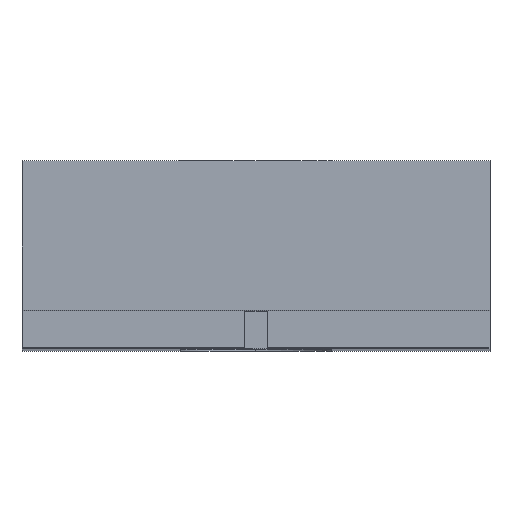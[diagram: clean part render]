
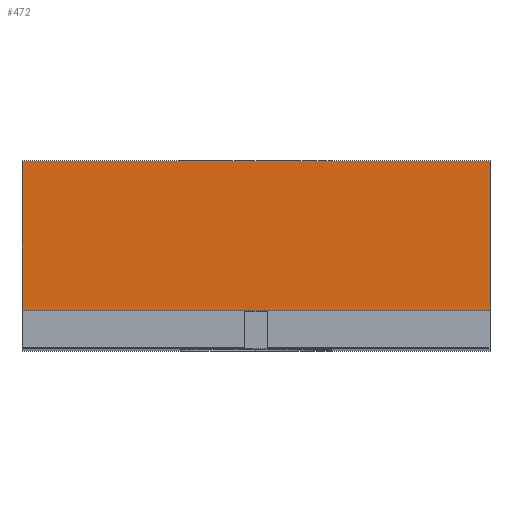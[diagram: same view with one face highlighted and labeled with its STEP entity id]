
A CAD part, top view. The second image highlights one B-rep face of the part: STEP entity #472.
In plain terms, the highlighted planar face has unit normal (0, 0, 1).
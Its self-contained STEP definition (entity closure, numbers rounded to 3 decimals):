
#34=PLANE('',#531);
#57=FACE_OUTER_BOUND('',#82,.T.);
#82=EDGE_LOOP('',(#420,#421,#422,#423));
#106=LINE('',#719,#156);
#120=LINE('',#746,#170);
#135=LINE('',#793,#185);
#136=LINE('',#794,#186);
#156=VECTOR('',#584,10.);
#170=VECTOR('',#608,10.);
#185=VECTOR('',#657,10.);
#186=VECTOR('',#658,10.);
#223=VERTEX_POINT('',#716);
#224=VERTEX_POINT('',#718);
#232=VERTEX_POINT('',#744);
#247=VERTEX_POINT('',#792);
#274=EDGE_CURVE('',#224,#223,#106,.T.);
#288=EDGE_CURVE('',#223,#232,#120,.T.);
#311=EDGE_CURVE('',#232,#247,#135,.T.);
#312=EDGE_CURVE('',#224,#247,#136,.T.);
#420=ORIENTED_EDGE('',*,*,#274,.T.);
#421=ORIENTED_EDGE('',*,*,#288,.T.);
#422=ORIENTED_EDGE('',*,*,#311,.T.);
#423=ORIENTED_EDGE('',*,*,#312,.F.);
#472=ADVANCED_FACE('',(#57),#34,.T.);
#531=AXIS2_PLACEMENT_3D('',#791,#655,#656);
#584=DIRECTION('',(1.,0.,0.));
#608=DIRECTION('',(0.,1.,0.));
#655=DIRECTION('center_axis',(0.,0.,1.));
#656=DIRECTION('ref_axis',(1.,0.,0.));
#657=DIRECTION('',(-1.,0.,0.));
#658=DIRECTION('',(0.,1.,0.));
#716=CARTESIAN_POINT('',(12.5,2.,56.25));
#718=CARTESIAN_POINT('',(-12.5,2.,56.25));
#719=CARTESIAN_POINT('',(6.25,2.,56.25));
#744=CARTESIAN_POINT('',(12.5,10.,56.25));
#746=CARTESIAN_POINT('',(12.5,0.,56.25));
#791=CARTESIAN_POINT('Origin',(12.5,0.,56.25));
#792=CARTESIAN_POINT('',(-12.5,10.,56.25));
#793=CARTESIAN_POINT('',(-12.5,10.,56.25));
#794=CARTESIAN_POINT('',(-12.5,0.,56.25));
